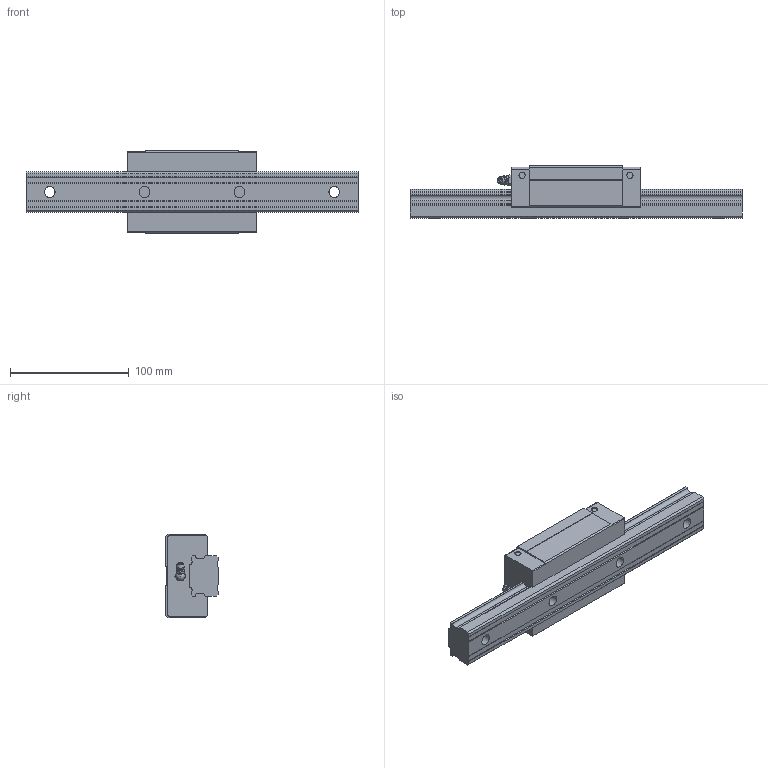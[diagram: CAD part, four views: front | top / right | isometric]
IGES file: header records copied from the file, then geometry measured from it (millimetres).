
Start section: Data from Parasolid IGES Translator 26.0.171, Copyright(c) 2006 Siemens PLM Software. All Rights Reserved.
Global section: file name: SVS35R1SS-280L_G20_0_B-M6F_85-25_0_0_0_1.igs; native system: By Siemens PLM Incorporated; preprocessor: XPlus GENERIC/IGES 26.0.171; author: Noname; organization: Noname; date: 20240516.115313; units: millimetre
Bounding box: 280 x 44 x 70 mm (x, y, z)
Surface area: 70050.9 mm2 (no closed solid volume)
Topology: 0 solids, 0 shells, 185 faces, 986 edges, 944 vertices
Faces by surface type: extrusion 100, revolution 85
